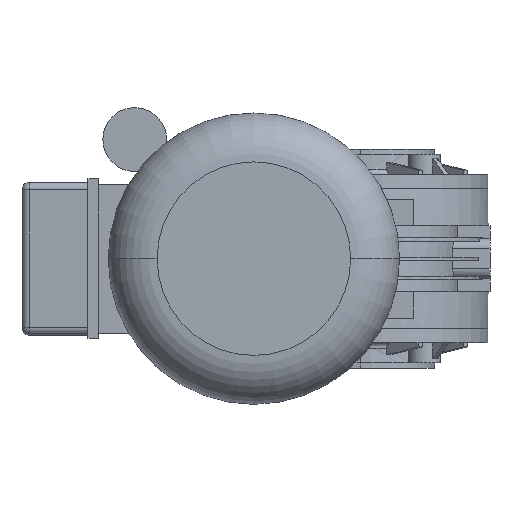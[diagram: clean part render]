
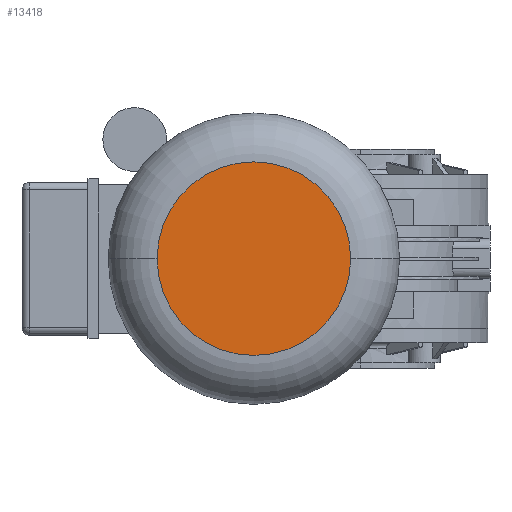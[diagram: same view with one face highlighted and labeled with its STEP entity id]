
A CAD part, left-side view. The second image highlights one B-rep face of the part: STEP entity #13418.
In plain terms, the highlighted planar face has unit normal (-1, 0, 0) as drawn and (0, 0, -1) by its records, which use the part's own axes.
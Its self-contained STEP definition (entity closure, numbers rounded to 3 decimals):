
#1167 = DIRECTION ( 'NONE',  ( 0., 0., -1. ) ) ;
#2376 = CARTESIAN_POINT ( 'NONE',  ( 0., 0., -183. ) ) ;
#2812 = EDGE_CURVE ( 'NONE', #27046, #22458, #30176, .T. ) ;
#6603 = DIRECTION ( 'NONE',  ( 0., 0., -1. ) ) ;
#8003 = ORIENTED_EDGE ( 'NONE', *, *, #22974, .T. ) ;
#8575 = DIRECTION ( 'NONE',  ( 0., 1., 0. ) ) ;
#11137 = AXIS2_PLACEMENT_3D ( 'NONE', #17178, #6603, #27178 ) ;
#11832 = AXIS2_PLACEMENT_3D ( 'NONE', #2376, #15293, #17879 ) ;
#12432 = FACE_OUTER_BOUND ( 'NONE', #32543, .T. ) ;
#13418 = ADVANCED_FACE ( 'NONE', ( #12432 ), #25335, .T. ) ;
#15293 = DIRECTION ( 'NONE',  ( 0., 0., -1. ) ) ;
#16698 = AXIS2_PLACEMENT_3D ( 'NONE', #21455, #1167, #8575 ) ;
#17178 = CARTESIAN_POINT ( 'NONE',  ( 0., 0., -183. ) ) ;
#17879 = DIRECTION ( 'NONE',  ( -1., 0., 0. ) ) ;
#18977 = CARTESIAN_POINT ( 'NONE',  ( 0., 45.5, -183. ) ) ;
#21455 = CARTESIAN_POINT ( 'NONE',  ( 0., 0., -183. ) ) ;
#22458 = VERTEX_POINT ( 'NONE', #18977 ) ;
#22974 = EDGE_CURVE ( 'NONE', #22458, #27046, #27612, .T. ) ;
#24790 = ORIENTED_EDGE ( 'NONE', *, *, #2812, .T. ) ;
#25335 = PLANE ( 'NONE',  #11832 ) ;
#27046 = VERTEX_POINT ( 'NONE', #32186 ) ;
#27178 = DIRECTION ( 'NONE',  ( 0., 1., 0. ) ) ;
#27612 = CIRCLE ( 'NONE', #16698, 45.5 ) ;
#30176 = CIRCLE ( 'NONE', #11137, 45.5 ) ;
#32186 = CARTESIAN_POINT ( 'NONE',  ( 0., -45.5, -183. ) ) ;
#32543 = EDGE_LOOP ( 'NONE', ( #8003, #24790 ) ) ;
